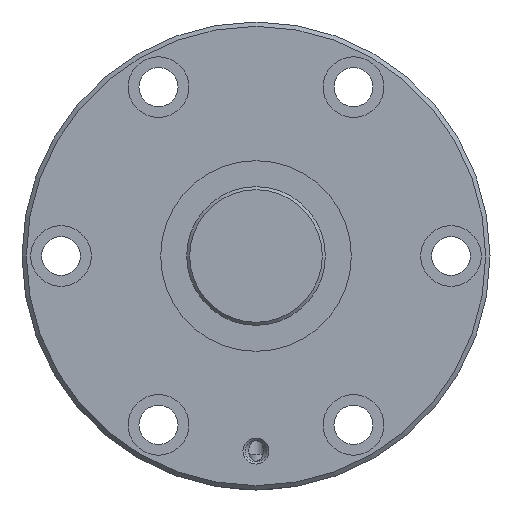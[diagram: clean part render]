
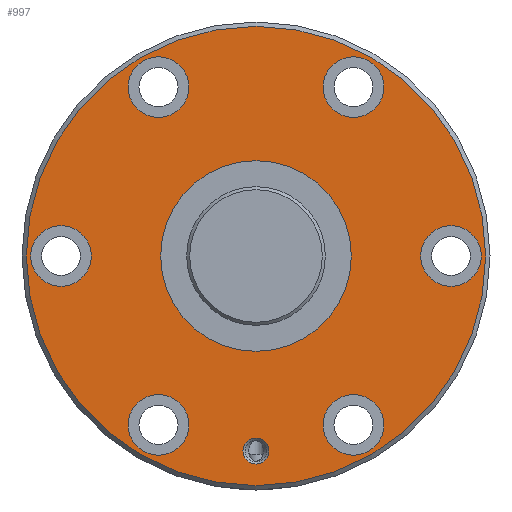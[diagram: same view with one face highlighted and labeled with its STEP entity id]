
A CAD part, left-side view. The second image highlights one B-rep face of the part: STEP entity #997.
In plain terms, the highlighted planar face has unit normal (-1, 0, 0).
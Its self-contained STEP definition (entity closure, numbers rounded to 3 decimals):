
#155=ORIENTED_EDGE('',*,*,#368,.T.);
#156=ORIENTED_EDGE('',*,*,#369,.T.);
#157=ORIENTED_EDGE('',*,*,#370,.T.);
#158=ORIENTED_EDGE('',*,*,#371,.T.);
#159=ORIENTED_EDGE('',*,*,#372,.T.);
#160=ORIENTED_EDGE('',*,*,#373,.T.);
#161=ORIENTED_EDGE('',*,*,#374,.T.);
#162=ORIENTED_EDGE('',*,*,#375,.T.);
#163=ORIENTED_EDGE('',*,*,#367,.F.);
#367=EDGE_CURVE('',#477,#477,#570,.T.);
#368=EDGE_CURVE('',#478,#478,#571,.T.);
#369=EDGE_CURVE('',#479,#479,#572,.F.);
#370=EDGE_CURVE('',#480,#480,#573,.T.);
#371=EDGE_CURVE('',#481,#481,#574,.T.);
#372=EDGE_CURVE('',#482,#482,#575,.T.);
#373=EDGE_CURVE('',#483,#483,#576,.T.);
#374=EDGE_CURVE('',#484,#484,#577,.T.);
#375=EDGE_CURVE('',#485,#485,#578,.T.);
#477=VERTEX_POINT('',#1670);
#478=VERTEX_POINT('',#1673);
#479=VERTEX_POINT('',#1675);
#480=VERTEX_POINT('',#1677);
#481=VERTEX_POINT('',#1679);
#482=VERTEX_POINT('',#1681);
#483=VERTEX_POINT('',#1683);
#484=VERTEX_POINT('',#1685);
#485=VERTEX_POINT('',#1687);
#570=CIRCLE('',#1111,53.);
#571=CIRCLE('',#1113,22.);
#572=CIRCLE('',#1114,7.);
#573=CIRCLE('',#1115,3.);
#574=CIRCLE('',#1116,7.);
#575=CIRCLE('',#1117,7.);
#576=CIRCLE('',#1118,7.);
#577=CIRCLE('',#1119,7.);
#578=CIRCLE('',#1120,7.);
#658=EDGE_LOOP('',(#155));
#659=EDGE_LOOP('',(#156));
#660=EDGE_LOOP('',(#157));
#661=EDGE_LOOP('',(#158));
#662=EDGE_LOOP('',(#159));
#663=EDGE_LOOP('',(#160));
#664=EDGE_LOOP('',(#161));
#665=EDGE_LOOP('',(#162));
#666=EDGE_LOOP('',(#163));
#818=FACE_BOUND('',#658,.T.);
#819=FACE_BOUND('',#659,.T.);
#820=FACE_BOUND('',#660,.T.);
#821=FACE_BOUND('',#661,.T.);
#822=FACE_BOUND('',#662,.T.);
#823=FACE_BOUND('',#663,.T.);
#824=FACE_BOUND('',#664,.T.);
#825=FACE_BOUND('',#665,.T.);
#826=FACE_BOUND('',#666,.T.);
#960=PLANE('',#1112);
#997=ADVANCED_FACE('',(#818,#819,#820,#821,#822,#823,#824,#825,#826),#960,
 .T.);
#1111=AXIS2_PLACEMENT_3D('',#1669,#1295,#1296);
#1112=AXIS2_PLACEMENT_3D('',#1671,#1297,#1298);
#1113=AXIS2_PLACEMENT_3D('',#1672,#1299,#1300);
#1114=AXIS2_PLACEMENT_3D('',#1674,#1301,#1302);
#1115=AXIS2_PLACEMENT_3D('',#1676,#1303,#1304);
#1116=AXIS2_PLACEMENT_3D('',#1678,#1305,#1306);
#1117=AXIS2_PLACEMENT_3D('',#1680,#1307,#1308);
#1118=AXIS2_PLACEMENT_3D('',#1682,#1309,#1310);
#1119=AXIS2_PLACEMENT_3D('',#1684,#1311,#1312);
#1120=AXIS2_PLACEMENT_3D('',#1686,#1313,#1314);
#1295=DIRECTION('',(1.,0.,0.));
#1296=DIRECTION('',(0.,0.,-1.));
#1297=DIRECTION('',(-1.,0.,0.));
#1298=DIRECTION('',(0.,0.,1.));
#1299=DIRECTION('',(1.,0.,0.));
#1300=DIRECTION('',(0.,0.,-1.));
#1301=DIRECTION('',(-1.,0.,0.));
#1302=DIRECTION('',(0.,0.,1.));
#1303=DIRECTION('',(1.,0.,0.));
#1304=DIRECTION('',(0.,0.,-1.));
#1305=DIRECTION('',(1.,0.,0.));
#1306=DIRECTION('',(0.,0.,-1.));
#1307=DIRECTION('',(1.,0.,0.));
#1308=DIRECTION('',(0.,0.,-1.));
#1309=DIRECTION('',(1.,0.,0.));
#1310=DIRECTION('',(0.,0.,-1.));
#1311=DIRECTION('',(1.,0.,0.));
#1312=DIRECTION('',(0.,0.,-1.));
#1313=DIRECTION('',(1.,0.,0.));
#1314=DIRECTION('',(0.,0.,-1.));
#1669=CARTESIAN_POINT('',(0.,0.,0.));
#1670=CARTESIAN_POINT('',(0.,0.,-53.));
#1671=CARTESIAN_POINT('',(0.,53.,0.));
#1672=CARTESIAN_POINT('',(0.,0.,0.));
#1673=CARTESIAN_POINT('',(0.,0.,-22.));
#1674=CARTESIAN_POINT('',(0.,45.,0.));
#1675=CARTESIAN_POINT('',(0.,45.,7.));
#1676=CARTESIAN_POINT('',(0.,0.,-45.));
#1677=CARTESIAN_POINT('',(0.,0.,-48.));
#1678=CARTESIAN_POINT('',(0.,-45.,0.));
#1679=CARTESIAN_POINT('',(0.,-45.,-7.));
#1680=CARTESIAN_POINT('',(0.,22.5,38.971));
#1681=CARTESIAN_POINT('',(0.,22.5,31.971));
#1682=CARTESIAN_POINT('',(0.,-22.5,-38.971));
#1683=CARTESIAN_POINT('',(0.,-22.5,-45.971));
#1684=CARTESIAN_POINT('',(0.,-22.5,38.971));
#1685=CARTESIAN_POINT('',(0.,-22.5,31.971));
#1686=CARTESIAN_POINT('',(0.,22.5,-38.971));
#1687=CARTESIAN_POINT('',(0.,22.5,-45.971));
